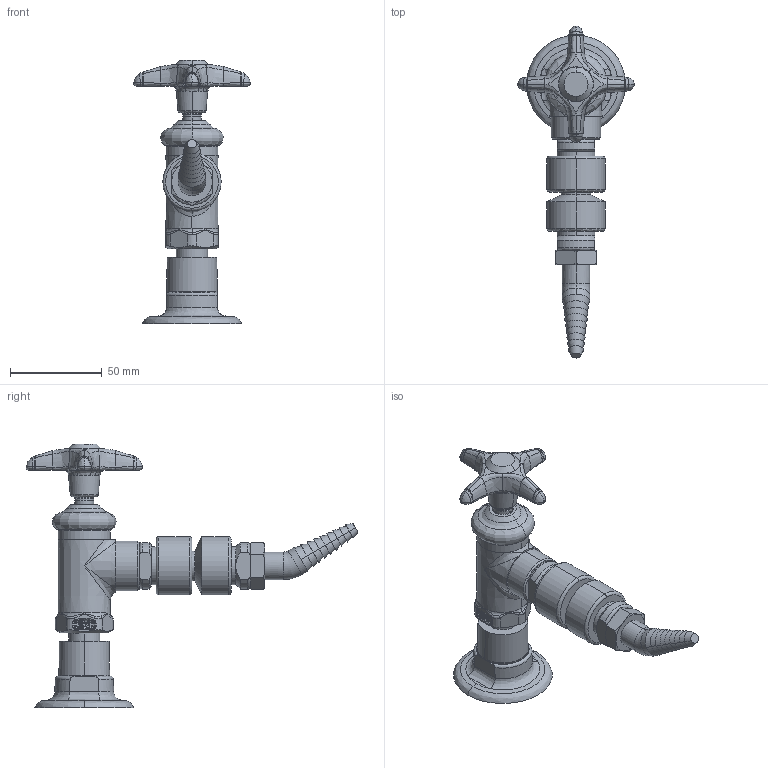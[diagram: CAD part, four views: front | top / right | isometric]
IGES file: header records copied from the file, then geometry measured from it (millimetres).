
Start section:  PTC IGES file: LWV2-C51-50.igs
Global section: file name: LWV2-C51-50.igs; native system: Creo Parametric by PTC Inc.; preprocessor: 2014500; author: usch_engrender; organization: Unknown; date: 20151117.120517; units: inch
Bounding box: 63.42 x 180.84 x 143.82 mm (x, y, z)
Volume: 146732.4 mm3; surface area: 34588.8 mm2
Topology: 1 solids, 4 shells, 551 faces, 1274 edges, 756 vertices
Faces by surface type: bspline 295, revolution 256
